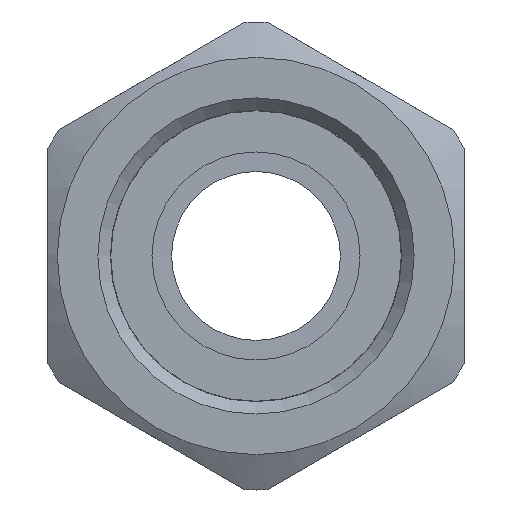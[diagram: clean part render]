
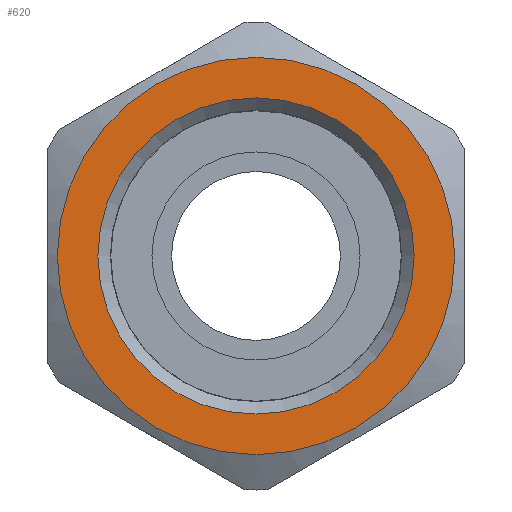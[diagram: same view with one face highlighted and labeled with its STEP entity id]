
A CAD part, front view. The second image highlights one B-rep face of the part: STEP entity #620.
In plain terms, the highlighted planar face has unit normal (0, -1, 0).
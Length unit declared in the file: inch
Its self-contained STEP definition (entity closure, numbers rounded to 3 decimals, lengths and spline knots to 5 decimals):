
#50=FACE_BOUND('',#124,.T.);
#59=PLANE('',#699);
#83=FACE_OUTER_BOUND('',#123,.T.);
#123=EDGE_LOOP('',(#483));
#124=EDGE_LOOP('',(#484));
#227=CIRCLE('',#698,0.38);
#228=CIRCLE('',#700,0.4775);
#281=VERTEX_POINT('',#1035);
#282=VERTEX_POINT('',#1039);
#356=EDGE_CURVE('',#281,#281,#227,.T.);
#357=EDGE_CURVE('',#282,#282,#228,.T.);
#483=ORIENTED_EDGE('',*,*,#357,.F.);
#484=ORIENTED_EDGE('',*,*,#356,.F.);
#620=ADVANCED_FACE('',(#83,#50),#59,.T.);
#698=AXIS2_PLACEMENT_3D('',#1037,#842,#843);
#699=AXIS2_PLACEMENT_3D('',#1038,#844,#845);
#700=AXIS2_PLACEMENT_3D('',#1040,#846,#847);
#842=DIRECTION('center_axis',(0.,-1.,0.));
#843=DIRECTION('ref_axis',(0.,0.,1.));
#844=DIRECTION('center_axis',(0.,-1.,0.));
#845=DIRECTION('ref_axis',(0.,0.,-1.));
#846=DIRECTION('center_axis',(0.,1.,0.));
#847=DIRECTION('ref_axis',(0.,0.,1.));
#1035=CARTESIAN_POINT('',(0.,-0.875,-0.38));
#1037=CARTESIAN_POINT('Origin',(0.,-0.875,0.));
#1038=CARTESIAN_POINT('Origin',(0.,-0.875,-0.35));
#1039=CARTESIAN_POINT('',(0.,-0.875,-0.4775));
#1040=CARTESIAN_POINT('Origin',(0.,-0.875,0.));
